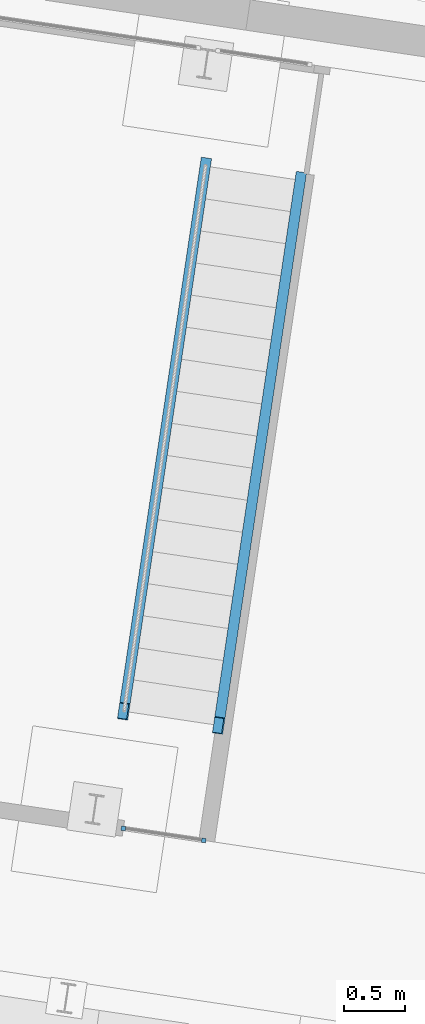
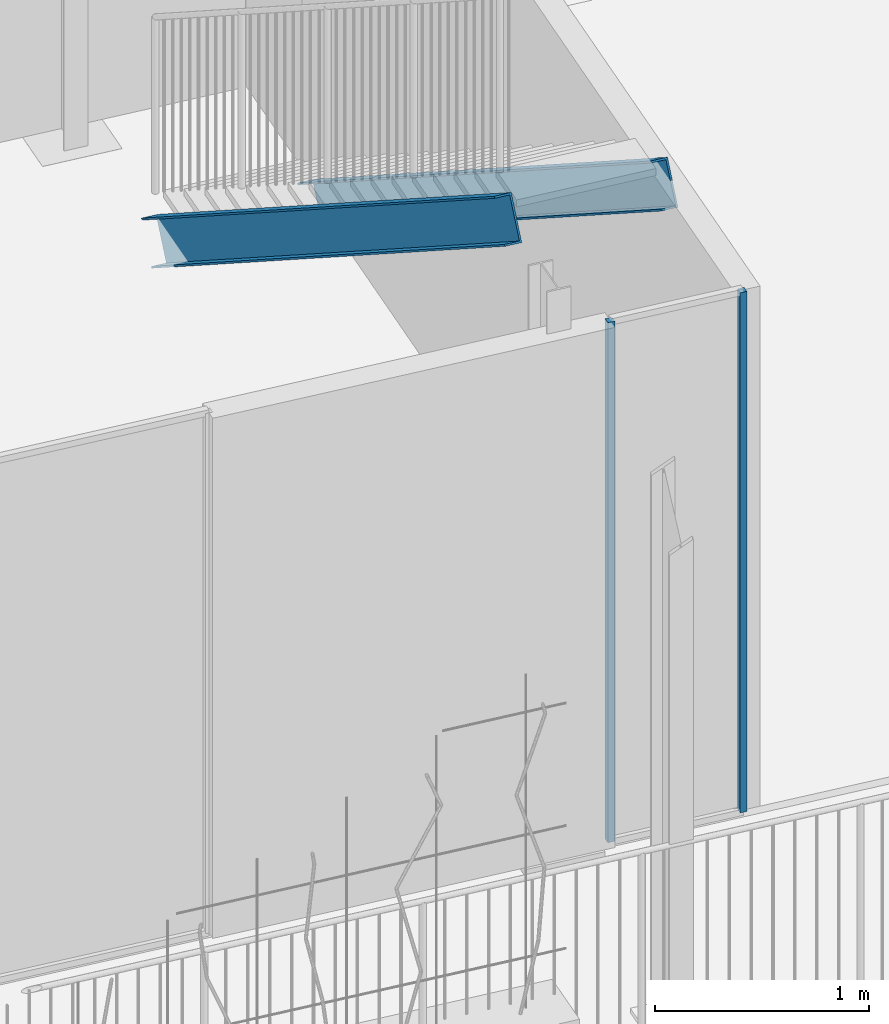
# One storey, part 93 of 142: 4 members, 1 element without a shape of its own.
"""IFC4 building model written with IfcOpenShell, lengths in metres."""

from ifc_helpers import new_model, si_unit, direction, frame, origin_with_axes, place, context, subcontext, project, spatial, polyline, rectangle, outline, extrude, material, material_profile, profile_set, profile_usage, type_object, element, aggregate, save


model = new_model("IFC4")

# Units and contexts
model_context = context("Model", 3, precision=1e-05, world=origin_with_axes(), true_north=direction((0.0, 1.0)))
body_context = subcontext(model_context, "Body", "Model", "MODEL_VIEW")
ifc_project = project(units=[si_unit("VOLUMEUNIT", "CUBIC_METRE"), si_unit("LENGTHUNIT", "METRE"), si_unit("AREAUNIT", "SQUARE_METRE")], contexts=[model_context])

# Site, building, storey
site_placement = place(None, origin_with_axes())
site = spatial("IfcSite", under=ifc_project, at=site_placement, Name="Lares · Rua das Mercês · artigo 4771")
building_placement = place(site_placement, frame((12.0, 10.2, 13.9), z_axis=(0.0, 0.0, 1.0), x_axis=(0.989015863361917, -0.147809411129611, 0.0)))
building = spatial("IfcBuilding", under=site, at=building_placement, Name="Casa Sobreposta")
storey_placement = place(building_placement, origin_with_axes())
storey = spatial("IfcBuildingStorey", under=building, at=storey_placement, Name="00 · Habitação e estacionamento", Elevation=13.9)

# Members
ifc_material = material(Name="Aço pintado / Stahl lackiert", Category="steel")
ifc_material_profile_1 = material_profile(ifc_material, rectangle(XDim=0.035, YDim=0.035))
ifc_profile_set_1 = profile_set([ifc_material_profile_1], Name="R0.035")
ifc_profile_usage_1 = profile_usage(ifc_profile_set_1)
member_type_1 = type_object("IfcMemberType", Name="R0.035 / steel", PredefinedType="NOTDEFINED", material=ifc_profile_set_1)
member_1_placement = place(storey_placement, frame((24.256, 0.0, 0.0), z_axis=(0.0, 0.0, 1.0), x_axis=(1.0, 0.0, 0.0)))
element("IfcMember", 1, at=member_1_placement, inside=storey, type_object=member_type_1, material=ifc_profile_usage_1, Name="Folha de correr sul 12 · montante", context=body_context, shape_type="SweptSolid", body=[
    extrude(rectangle(XDim=0.035, YDim=0.035), origin_with_axes(), (0.0, 0.0, 1.0), 2.968),
])
ifc_profile_usage_2 = profile_usage(ifc_profile_set_1)
member_2_placement = place(storey_placement, frame((24.92, 0.0, 0.0), z_axis=(0.0, 0.0, 1.0), x_axis=(1.0, 0.0, 0.0)))
element("IfcMember", 2, at=member_2_placement, inside=storey, type_object=member_type_1, material=ifc_profile_usage_2, Name="Folha de correr sul 12 · montante", context=body_context, shape_type="SweptSolid", body=[
    extrude(rectangle(XDim=0.035, YDim=0.035), origin_with_axes(), (0.0, 0.0, 1.0), 2.968),
])

# Stair, members
stair_placement = place(storey_placement, origin_with_axes())
stair = element("IfcStair", 3, at=stair_placement, inside=storey, Name="Escada garagem", PredefinedType="STRAIGHT_RUN_STAIR")
ifc_material_profile_2 = material_profile(ifc_material, outline(polyline([(-0.0425, -0.12), (0.0425, -0.12), (0.0425, -0.1102), (-0.0325, -0.1102), (-0.0325, 0.1102), (0.0425, 0.1102), (0.0425, 0.12), (-0.0425, 0.12), (-0.0425, -0.12)])))
ifc_profile_set_2 = profile_set([ifc_material_profile_2], Name="C240")
ifc_profile_usage_3 = profile_usage(ifc_profile_set_2)
member_type_2 = type_object("IfcMemberType", Name="C240 / steel", PredefinedType="NOTDEFINED", material=ifc_profile_set_2)
member_3_placement = place(stair_placement, frame((24.1175, 5.4525, -0.1), z_axis=(0.0, -0.827216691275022, 0.561883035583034), x_axis=(-1.0, 0.0, 0.0)))
member_3 = element("IfcMember", 4, at=member_3_placement, type_object=member_type_2, material=ifc_profile_usage_3, Name="Longarina metálica garagem", context=body_context, shape_type="SweptSolid", body=[
    extrude(outline(polyline([(-0.0425, -0.12), (0.0425, -0.12), (0.0425, -0.1102), (-0.0325, -0.1102), (-0.0325, 0.1102), (0.0425, 0.1102), (0.0425, 0.12), (-0.0425, 0.12), (-0.0425, -0.12)])), origin_with_axes(), (0.0, 0.0, 1.0), 5.44597328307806),
])
ifc_profile_usage_4 = profile_usage(ifc_profile_set_2)
member_4_placement = place(stair_placement, frame((24.9025, 5.4525, -0.1), z_axis=(0.0, -0.827216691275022, 0.561883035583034), x_axis=(-1.0, 0.0, 0.0)))
member_4 = element("IfcMember", 5, at=member_4_placement, type_object=member_type_2, material=ifc_profile_usage_4, Name="Longarina metálica garagem", context=body_context, shape_type="SweptSolid", body=[
    extrude(outline(polyline([(-0.0425, -0.12), (0.0425, -0.12), (0.0425, -0.1102), (-0.0325, -0.1102), (-0.0325, 0.1102), (0.0425, 0.1102), (0.0425, 0.12), (-0.0425, 0.12), (-0.0425, -0.12)])), origin_with_axes(), (0.0, 0.0, 1.0), 5.44597328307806),
])
aggregate(stair, [member_3, member_4])

save(model, "model.ifc")
